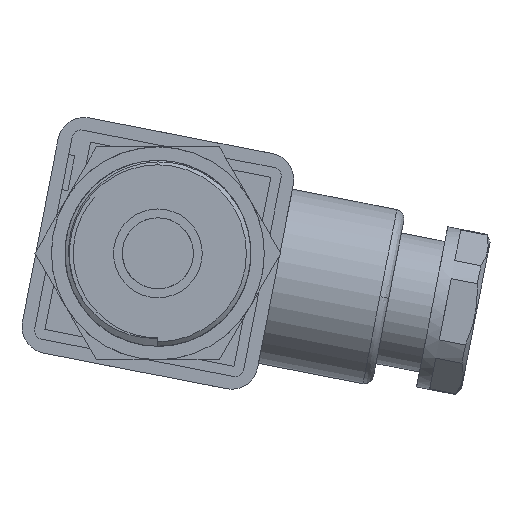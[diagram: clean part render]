
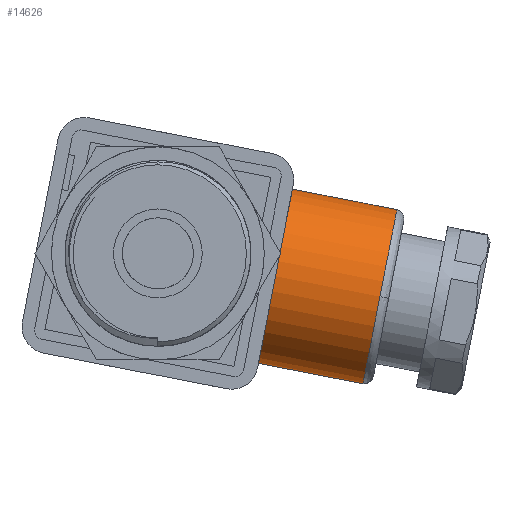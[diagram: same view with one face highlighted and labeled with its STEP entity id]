
A CAD part, front view. The second image highlights one B-rep face of the part: STEP entity #14626.
In plain terms, the highlighted cylindrical face has radius 10 mm (diameter 20 mm), a partial arc.
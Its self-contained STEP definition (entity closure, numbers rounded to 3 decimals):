
#184 = AXIS2_PLACEMENT_3D ( 'NONE', #203, #7651, #3979 ) ;
#203 = CARTESIAN_POINT ( 'NONE',  ( 17.75, 16.5, 0. ) ) ;
#336 = EDGE_CURVE ( 'NONE', #2559, #12193, #5641, .T. ) ;
#473 = CARTESIAN_POINT ( 'NONE',  ( 25.5, 16.5, 10. ) ) ;
#1040 = CARTESIAN_POINT ( 'NONE',  ( 13.5, 16.5, 0. ) ) ;
#1868 = ORIENTED_EDGE ( 'NONE', *, *, #336, .T. ) ;
#2559 = VERTEX_POINT ( 'NONE', #10295 ) ;
#2768 = CIRCLE ( 'NONE', #15541, 10. ) ;
#3290 = DIRECTION ( 'NONE',  ( 0., 0., 1. ) ) ;
#3346 = EDGE_CURVE ( 'NONE', #12193, #13048, #2768, .T. ) ;
#3793 = EDGE_CURVE ( 'NONE', #11890, #8128, #12342, .T. ) ;
#3979 = DIRECTION ( 'NONE',  ( 0., 0., 1. ) ) ;
#4649 = VECTOR ( 'NONE', #14078, 1000. ) ;
#4717 = DIRECTION ( 'NONE',  ( 0., 0., 1. ) ) ;
#4853 = AXIS2_PLACEMENT_3D ( 'NONE', #8122, #14441, #4717 ) ;
#5038 = CYLINDRICAL_SURFACE ( 'NONE', #184, 10. ) ;
#5340 = VECTOR ( 'NONE', #13751, 1000. ) ;
#5641 = CIRCLE ( 'NONE', #4853, 10. ) ;
#6164 = CARTESIAN_POINT ( 'NONE',  ( 25.5, 16.5, 0. ) ) ;
#7271 = EDGE_CURVE ( 'NONE', #2559, #11890, #10520, .T. ) ;
#7580 = AXIS2_PLACEMENT_3D ( 'NONE', #1040, #10682, #3290 ) ;
#7651 = DIRECTION ( 'NONE',  ( -1., 0., 0. ) ) ;
#7748 = FACE_OUTER_BOUND ( 'NONE', #7917, .T. ) ;
#7917 = EDGE_LOOP ( 'NONE', ( #13635, #1868, #15137, #9903, #13333 ) ) ;
#8122 = CARTESIAN_POINT ( 'NONE',  ( 25.5, 16.5, 0. ) ) ;
#8128 = VERTEX_POINT ( 'NONE', #8628 ) ;
#8628 = CARTESIAN_POINT ( 'NONE',  ( 13.5, 16.5, 10. ) ) ;
#8684 = DIRECTION ( 'NONE',  ( 0., 0., 1. ) ) ;
#8742 = DIRECTION ( 'NONE',  ( -1., 0., 0. ) ) ;
#9503 = CARTESIAN_POINT ( 'NONE',  ( 25.5, 6.5, 0. ) ) ;
#9903 = ORIENTED_EDGE ( 'NONE', *, *, #14287, .T. ) ;
#10295 = CARTESIAN_POINT ( 'NONE',  ( 25.5, 16.5, -10. ) ) ;
#10520 = LINE ( 'NONE', #11310, #5340 ) ;
#10682 = DIRECTION ( 'NONE',  ( -1., 0., 0. ) ) ;
#11310 = CARTESIAN_POINT ( 'NONE',  ( 17.75, 16.5, -10. ) ) ;
#11519 = CARTESIAN_POINT ( 'NONE',  ( 17.75, 16.5, 10. ) ) ;
#11890 = VERTEX_POINT ( 'NONE', #12553 ) ;
#12193 = VERTEX_POINT ( 'NONE', #9503 ) ;
#12342 = CIRCLE ( 'NONE', #7580, 10. ) ;
#12553 = CARTESIAN_POINT ( 'NONE',  ( 13.5, 16.5, -10. ) ) ;
#13048 = VERTEX_POINT ( 'NONE', #473 ) ;
#13333 = ORIENTED_EDGE ( 'NONE', *, *, #3793, .F. ) ;
#13635 = ORIENTED_EDGE ( 'NONE', *, *, #7271, .F. ) ;
#13751 = DIRECTION ( 'NONE',  ( -1., 0., 0. ) ) ;
#14078 = DIRECTION ( 'NONE',  ( -1., 0., 0. ) ) ;
#14287 = EDGE_CURVE ( 'NONE', #13048, #8128, #14315, .T. ) ;
#14315 = LINE ( 'NONE', #11519, #4649 ) ;
#14441 = DIRECTION ( 'NONE',  ( -1., 0., 0. ) ) ;
#14626 = ADVANCED_FACE ( 'NONE', ( #7748 ), #5038, .T. ) ;
#15137 = ORIENTED_EDGE ( 'NONE', *, *, #3346, .T. ) ;
#15541 = AXIS2_PLACEMENT_3D ( 'NONE', #6164, #8742, #8684 ) ;
